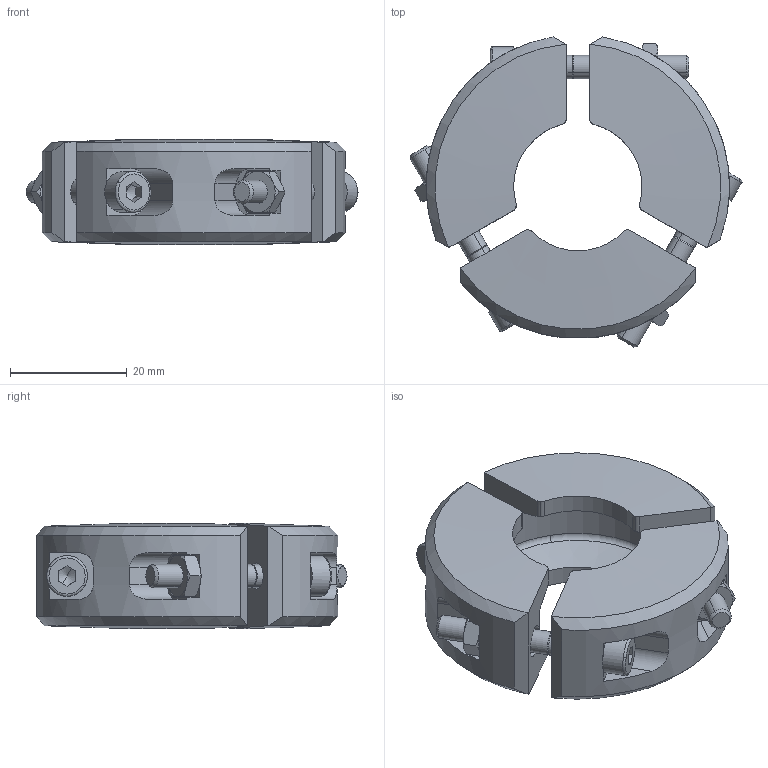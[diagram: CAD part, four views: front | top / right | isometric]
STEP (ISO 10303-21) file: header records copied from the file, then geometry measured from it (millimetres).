
FILE_DESCRIPTION((''),'2;1');
FILE_NAME('W:\211-008.stp','2003-11-10T10:45:16',('KAA'),(''),'Autodesk Inventor (R) 6.0','Autodesk Inventor (R) 6.0','');
FILE_SCHEMA(('CONFIG_CONTROL_DESIGN'));
Length unit declared in the file: millimetre
Products named in the file (1): 211-008
Bounding box: 56.9 x 53.14 x 18 mm (x, y, z)
Volume: 20675.9 mm3; surface area: 11596.6 mm2
Topology: 1 solids, 4 shells, 327 faces, 819 edges, 516 vertices
Faces by surface type: plane 117, cone 96, cylinder 96, torus 12, bspline 6
Entity records: 10399 total; most frequent: CARTESIAN_POINT 2857, ORIENTED_EDGE 1626, DIRECTION 1532, EDGE_CURVE 813, AXIS2_PLACEMENT_3D 613, VERTEX_POINT 516, EDGE_LOOP 357, FACE_OUTER_BOUND 327
